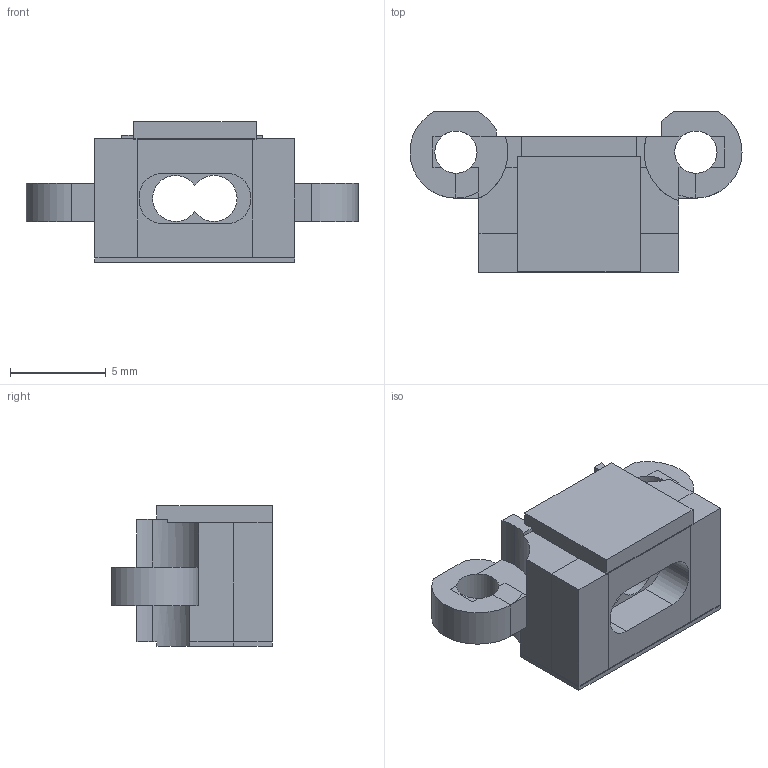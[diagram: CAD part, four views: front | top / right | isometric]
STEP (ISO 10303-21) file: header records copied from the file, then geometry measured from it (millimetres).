
FILE_DESCRIPTION(('Open CASCADE Model'),'2;1');
FILE_NAME('Open CASCADE Shape Model','2026-09-15T15:15:33',('Author'),( 'Open CASCADE'),'Open CASCADE STEP processor 7.7','Open CASCADE 7.7' ,'Unknown');
FILE_SCHEMA(('AUTOMOTIVE_DESIGN { 1 0 10303 214 1 1 1 1 }'));
Length unit declared in the file: millimetre
Products named in the file (1): Open CASCADE STEP translator 7.7 1
Bounding box: 17.29 x 8.35 x 7.33 mm (x, y, z)
Volume: 425.1 mm3; surface area: 557.2 mm2
Topology: 1 solids, 1 shells, 120 faces, 330 edges, 209 vertices
Faces by surface type: plane 99, cylinder 21
Full cylindrical faces by diameter (mm): 2.2 x2
Entity records: 7929 total; most frequent: CARTESIAN_POINT 1552, DIRECTION 1123, ORIENTED_EDGE 660, PCURVE 660, DEFINITIONAL_REPRESENTATION 660, LINE 644, VECTOR 644, EDGE_CURVE 330
